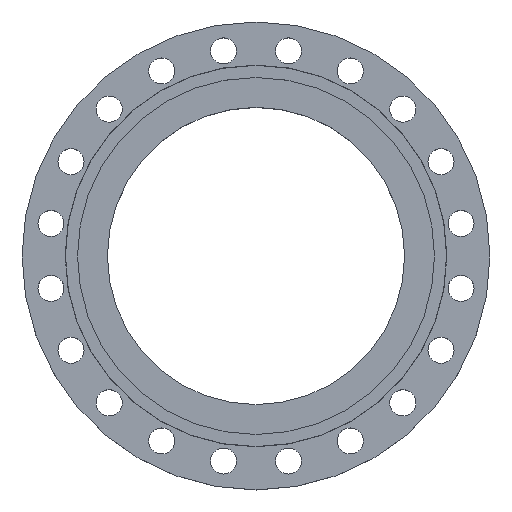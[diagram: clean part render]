
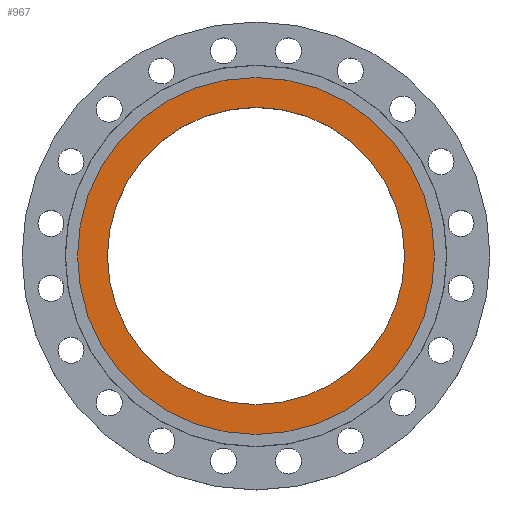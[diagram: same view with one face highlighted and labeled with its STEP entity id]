
A CAD part, top view. The second image highlights one B-rep face of the part: STEP entity #967.
In plain terms, the highlighted planar face has unit normal (0, 0, 1).
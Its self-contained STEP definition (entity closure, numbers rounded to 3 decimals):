
#56 = DIRECTION ( 'NONE',  ( 1., 0., 0. ) ) ;
#77 = VERTEX_POINT ( 'NONE', #1100 ) ;
#167 = VERTEX_POINT ( 'NONE', #463 ) ;
#216 = ORIENTED_EDGE ( 'NONE', *, *, #618, .F. ) ;
#241 = ORIENTED_EDGE ( 'NONE', *, *, #1179, .T. ) ;
#244 = AXIS2_PLACEMENT_3D ( 'NONE', #347, #1032, #1711 ) ;
#316 = CARTESIAN_POINT ( 'NONE',  ( 288., 0., -5. ) ) ;
#326 = EDGE_LOOP ( 'NONE', ( #1383, #241 ) ) ;
#338 = DIRECTION ( 'NONE',  ( 0., 0., -1. ) ) ;
#347 = CARTESIAN_POINT ( 'NONE',  ( 0., 0., -5. ) ) ;
#381 = AXIS2_PLACEMENT_3D ( 'NONE', #316, #1002, #1678 ) ;
#388 = DIRECTION ( 'NONE',  ( 1., 0., 0. ) ) ;
#426 = VERTEX_POINT ( 'NONE', #2012 ) ;
#463 = CARTESIAN_POINT ( 'NONE',  ( 239.8, 0., -5. ) ) ;
#522 = CIRCLE ( 'NONE', #851, 288. ) ;
#618 = EDGE_CURVE ( 'NONE', #979, #77, #522, .T. ) ;
#656 = FACE_BOUND ( 'NONE', #326, .T. ) ;
#851 = AXIS2_PLACEMENT_3D ( 'NONE', #1847, #338, #1026 ) ;
#889 = CIRCLE ( 'NONE', #244, 288. ) ;
#907 = CARTESIAN_POINT ( 'NONE',  ( 0., 0., -5. ) ) ;
#967 = ADVANCED_FACE ( 'NONE', ( #656, #1161 ), #1827, .T. ) ;
#979 = VERTEX_POINT ( 'NONE', #2084 ) ;
#1002 = DIRECTION ( 'NONE',  ( 0., 0., 1. ) ) ;
#1026 = DIRECTION ( 'NONE',  ( -1., 0., 0. ) ) ;
#1032 = DIRECTION ( 'NONE',  ( 0., 0., -1. ) ) ;
#1100 = CARTESIAN_POINT ( 'NONE',  ( 288., 0., -5. ) ) ;
#1161 = FACE_OUTER_BOUND ( 'NONE', #1479, .T. ) ;
#1168 = EDGE_CURVE ( 'NONE', #426, #167, #1435, .T. ) ;
#1179 = EDGE_CURVE ( 'NONE', #167, #426, #1466, .T. ) ;
#1233 = CARTESIAN_POINT ( 'NONE',  ( 0., 0., -5. ) ) ;
#1383 = ORIENTED_EDGE ( 'NONE', *, *, #1168, .T. ) ;
#1435 = CIRCLE ( 'NONE', #1437, 239.8 ) ;
#1437 = AXIS2_PLACEMENT_3D ( 'NONE', #1233, #1883, #388 ) ;
#1456 = EDGE_CURVE ( 'NONE', #77, #979, #889, .T. ) ;
#1466 = CIRCLE ( 'NONE', #1469, 239.8 ) ;
#1469 = AXIS2_PLACEMENT_3D ( 'NONE', #907, #1582, #56 ) ;
#1479 = EDGE_LOOP ( 'NONE', ( #216, #1844 ) ) ;
#1582 = DIRECTION ( 'NONE',  ( 0., 0., -1. ) ) ;
#1678 = DIRECTION ( 'NONE',  ( 1., 0., 0. ) ) ;
#1711 = DIRECTION ( 'NONE',  ( -1., 0., 0. ) ) ;
#1827 = PLANE ( 'NONE',  #381 ) ;
#1844 = ORIENTED_EDGE ( 'NONE', *, *, #1456, .F. ) ;
#1847 = CARTESIAN_POINT ( 'NONE',  ( 0., 0., -5. ) ) ;
#1883 = DIRECTION ( 'NONE',  ( 0., 0., -1. ) ) ;
#2012 = CARTESIAN_POINT ( 'NONE',  ( -239.8, 0., -5. ) ) ;
#2084 = CARTESIAN_POINT ( 'NONE',  ( -288., 0., -5. ) ) ;
